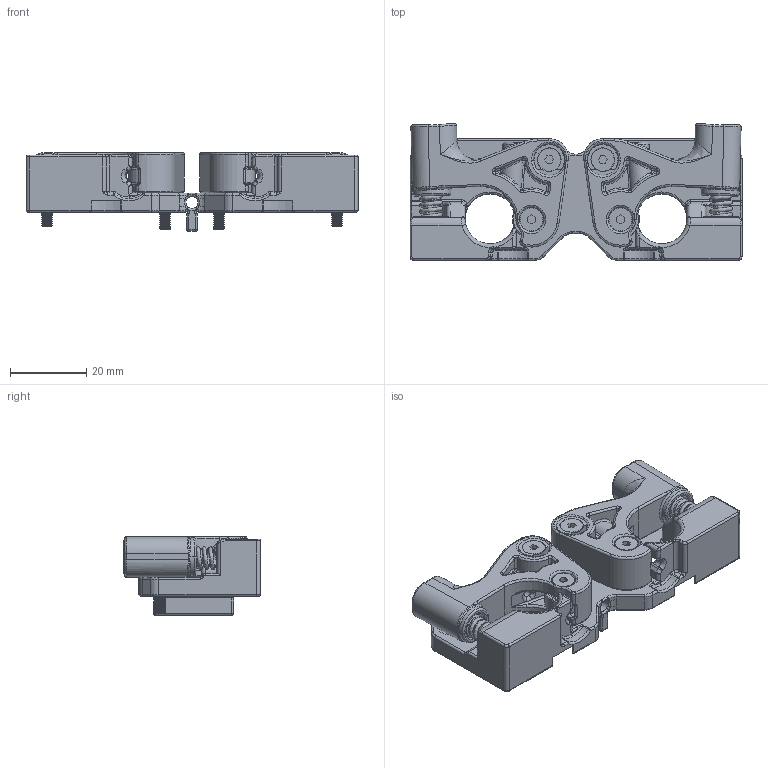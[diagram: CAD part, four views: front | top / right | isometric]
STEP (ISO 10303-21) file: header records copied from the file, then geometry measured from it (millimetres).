
FILE_DESCRIPTION (( 'STEP AP214' ), '1' );
FILE_NAME ('Mk8 Extruder upgrade dual.STEP', '2013-06-16T23:37:30', ( 'josa' ), ( '' ), 'SwSTEP 2.0', 'SolidWorks 2012', '' );
FILE_SCHEMA (( 'AUTOMOTIVE_DESIGN' ));
Length unit declared in the file: millimetre
Products named in the file (11): MK8 Extruder AdjScrew dual; Screw-MF6S-10.9-M3x12H-Bufab_Screw-MF6S-10.9-M3x12H-Bufab; Screw-MF6S-10.9-M3x8H-Bufab_Screw-MF6S-10.9-M3x8H-Bufab; Screw-MF6S-10.9-M3x20H-Bufab_Screw-MF6S-10.9-M3x20H-Bufab; Mk8 Extruder Arm dual left; Bearing-M-623-ZZ-Nomo_Bearing-M-623-ZZ-Nomo; 1180 pushspring 2_Expanded; Extruder pin dual; Mk8 Extruder Arm dual right; Mk8 Extruder Base dual; Mk8 Extruder upgrade dual
Assembly tree (17 placements, depth 2):
  Mk8 Extruder upgrade dual
    Mk8 Extruder Base dual
    Mk8 Extruder Arm dual right
    Extruder pin dual  x2
    1180 pushspring 2_Expanded  x2
    Bearing-M-623-ZZ-Nomo_Bearing-M-623-ZZ-Nomo  x2
    Mk8 Extruder Arm dual left
    Screw-MF6S-10.9-M3x20H-Bufab_Screw-MF6S-10.9-M3x20H-Bufab  x2
    Screw-MF6S-10.9-M3x8H-Bufab_Screw-MF6S-10.9-M3x8H-Bufab  x2
    Screw-MF6S-10.9-M3x12H-Bufab_Screw-MF6S-10.9-M3x12H-Bufab  x2
    MK8 Extruder AdjScrew dual  x2
Bounding box: 87.04 x 35.89 x 20.6 mm (x, y, z)
Volume: 27364.7 mm3; surface area: 20666.8 mm2
Topology: 17 solids, 19 shells, 2365 faces, 5384 edges, 2963 vertices
Faces by surface type: cylinder 970, cone 612, torus 281, plane 228, bspline 196, sphere 78
Entity records: 56649 total; most frequent: CARTESIAN_POINT 19661, DIRECTION 7942, ORIENTED_EDGE 7368, EDGE_CURVE 3684, AXIS2_PLACEMENT_3D 3339, VERTEX_POINT 2066, CIRCLE 1880, EDGE_LOOP 1686
